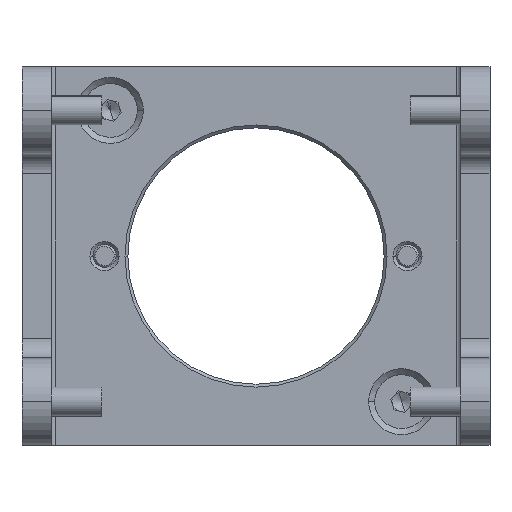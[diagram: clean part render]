
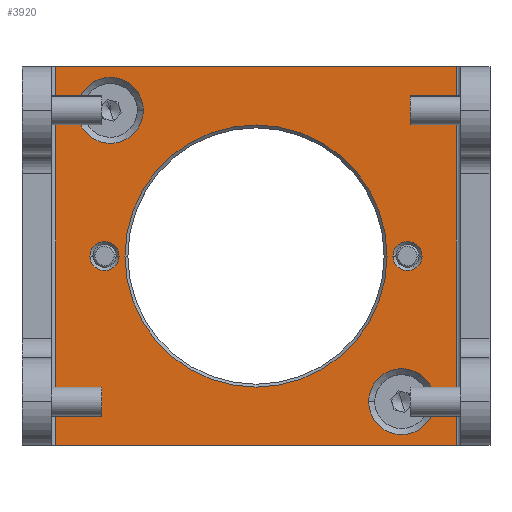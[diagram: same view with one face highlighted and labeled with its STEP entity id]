
A CAD part, top view. The second image highlights one B-rep face of the part: STEP entity #3920.
In plain terms, the highlighted planar face has unit normal (0, 0, 1).
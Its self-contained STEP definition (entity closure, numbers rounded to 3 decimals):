
#166 = EDGE_CURVE ( 'NONE', #2385, #3336, #10976, .T. ) ;
#241 = CARTESIAN_POINT ( 'NONE',  ( -13.5, 0., 0. ) ) ;
#256 = CIRCLE ( 'NONE', #5884, 3.4 ) ;
#277 = CARTESIAN_POINT ( 'NONE',  ( -21.1, 19.5, 0. ) ) ;
#292 = DIRECTION ( 'NONE',  ( 1., 0., 0. ) ) ;
#334 = CARTESIAN_POINT ( 'NONE',  ( 18.4, -15., 0. ) ) ;
#362 = DIRECTION ( 'NONE',  ( 1., 0., 0. ) ) ;
#384 = CARTESIAN_POINT ( 'NONE',  ( 11.6, -15., 0. ) ) ;
#446 = CIRCLE ( 'NONE', #1988, 1.5 ) ;
#547 = VERTEX_POINT ( 'NONE', #3656 ) ;
#606 = CARTESIAN_POINT ( 'NONE',  ( 20.6, 19.5, 0. ) ) ;
#636 = AXIS2_PLACEMENT_3D ( 'NONE', #11675, #2248, #9652 ) ;
#729 = FACE_BOUND ( 'NONE', #11245, .T. ) ;
#765 = DIRECTION ( 'NONE',  ( -1., 0., 0. ) ) ;
#795 = AXIS2_PLACEMENT_3D ( 'NONE', #9337, #2945, #10237 ) ;
#855 = EDGE_CURVE ( 'NONE', #3336, #2385, #11811, .T. ) ;
#897 = DIRECTION ( 'NONE',  ( 0., -1., 0. ) ) ;
#1280 = ORIENTED_EDGE ( 'NONE', *, *, #5298, .T. ) ;
#1452 = EDGE_CURVE ( 'NONE', #8677, #8291, #11402, .T. ) ;
#1489 = VERTEX_POINT ( 'NONE', #10849 ) ;
#1692 = FACE_BOUND ( 'NONE', #6046, .T. ) ;
#1693 = ORIENTED_EDGE ( 'NONE', *, *, #1452, .F. ) ;
#1821 = CARTESIAN_POINT ( 'NONE',  ( 15., -15., 0. ) ) ;
#1860 = LINE ( 'NONE', #6419, #11377 ) ;
#1988 = AXIS2_PLACEMENT_3D ( 'NONE', #7883, #7825, #2400 ) ;
#2059 = AXIS2_PLACEMENT_3D ( 'NONE', #4592, #10946, #2639 ) ;
#2061 = EDGE_LOOP ( 'NONE', ( #7159, #2251 ) ) ;
#2095 = DIRECTION ( 'NONE',  ( 0., 0., 1. ) ) ;
#2162 = DIRECTION ( 'NONE',  ( 1., 0., 0. ) ) ;
#2209 = CARTESIAN_POINT ( 'NONE',  ( 13.5, 0., 0. ) ) ;
#2248 = DIRECTION ( 'NONE',  ( 0., 0., 1. ) ) ;
#2251 = ORIENTED_EDGE ( 'NONE', *, *, #3737, .T. ) ;
#2280 = EDGE_CURVE ( 'NONE', #9969, #3421, #9466, .T. ) ;
#2341 = CARTESIAN_POINT ( 'NONE',  ( 17.1, 0., 0. ) ) ;
#2385 = VERTEX_POINT ( 'NONE', #10631 ) ;
#2400 = DIRECTION ( 'NONE',  ( -1., 0., 0. ) ) ;
#2639 = DIRECTION ( 'NONE',  ( -1., 0., 0. ) ) ;
#2692 = AXIS2_PLACEMENT_3D ( 'NONE', #9029, #8117, #765 ) ;
#2826 = ORIENTED_EDGE ( 'NONE', *, *, #2280, .T. ) ;
#2920 = EDGE_CURVE ( 'NONE', #8677, #1489, #1860, .T. ) ;
#2945 = DIRECTION ( 'NONE',  ( 0., 0., -1. ) ) ;
#3000 = EDGE_CURVE ( 'NONE', #10928, #547, #6564, .T. ) ;
#3145 = CIRCLE ( 'NONE', #7051, 3.4 ) ;
#3274 = CARTESIAN_POINT ( 'NONE',  ( -14.1, 0., 0. ) ) ;
#3332 = FACE_BOUND ( 'NONE', #5522, .T. ) ;
#3336 = VERTEX_POINT ( 'NONE', #2341 ) ;
#3377 = VERTEX_POINT ( 'NONE', #334 ) ;
#3421 = VERTEX_POINT ( 'NONE', #2209 ) ;
#3656 = CARTESIAN_POINT ( 'NONE',  ( -18.4, 15., 0. ) ) ;
#3737 = EDGE_CURVE ( 'NONE', #9760, #3981, #10636, .T. ) ;
#3874 = VECTOR ( 'NONE', #3958, 1000. ) ;
#3920 = ADVANCED_FACE ( 'NONE', ( #1692, #729, #5281, #3332, #9834, #8142 ), #7176, .F. ) ;
#3958 = DIRECTION ( 'NONE',  ( 1., 0., 0. ) ) ;
#3981 = VERTEX_POINT ( 'NONE', #3274 ) ;
#4246 = AXIS2_PLACEMENT_3D ( 'NONE', #11742, #7115, #4361 ) ;
#4361 = DIRECTION ( 'NONE',  ( -1., 0., 0. ) ) ;
#4592 = CARTESIAN_POINT ( 'NONE',  ( 15.6, 0., 0. ) ) ;
#4668 = CARTESIAN_POINT ( 'NONE',  ( -17.1, 0., 0. ) ) ;
#4681 = VECTOR ( 'NONE', #8015, 1000. ) ;
#4972 = VERTEX_POINT ( 'NONE', #8771 ) ;
#5058 = ORIENTED_EDGE ( 'NONE', *, *, #8552, .T. ) ;
#5281 = FACE_BOUND ( 'NONE', #2061, .T. ) ;
#5298 = EDGE_CURVE ( 'NONE', #1489, #4972, #8670, .T. ) ;
#5333 = LINE ( 'NONE', #606, #4681 ) ;
#5378 = ORIENTED_EDGE ( 'NONE', *, *, #3000, .F. ) ;
#5522 = EDGE_LOOP ( 'NONE', ( #9147, #2826 ) ) ;
#5633 = ORIENTED_EDGE ( 'NONE', *, *, #166, .T. ) ;
#5823 = AXIS2_PLACEMENT_3D ( 'NONE', #6259, #9784, #10013 ) ;
#5884 = AXIS2_PLACEMENT_3D ( 'NONE', #1821, #7648, #362 ) ;
#6046 = EDGE_LOOP ( 'NONE', ( #10905, #8847 ) ) ;
#6259 = CARTESIAN_POINT ( 'NONE',  ( -21.1, 19.5, 0. ) ) ;
#6419 = CARTESIAN_POINT ( 'NONE',  ( -20.6, -19.5, 0. ) ) ;
#6490 = EDGE_CURVE ( 'NONE', #3421, #9969, #6607, .T. ) ;
#6564 = CIRCLE ( 'NONE', #8120, 3.4 ) ;
#6607 = CIRCLE ( 'NONE', #4246, 13.5 ) ;
#7011 = CARTESIAN_POINT ( 'NONE',  ( -11.6, 15., 0. ) ) ;
#7051 = AXIS2_PLACEMENT_3D ( 'NONE', #11271, #8466, #10152 ) ;
#7079 = EDGE_LOOP ( 'NONE', ( #5378, #11984 ) ) ;
#7115 = DIRECTION ( 'NONE',  ( 0., 0., -1. ) ) ;
#7159 = ORIENTED_EDGE ( 'NONE', *, *, #8743, .T. ) ;
#7176 = PLANE ( 'NONE',  #5823 ) ;
#7363 = VECTOR ( 'NONE', #292, 1000. ) ;
#7633 = CARTESIAN_POINT ( 'NONE',  ( 0., 0., 0. ) ) ;
#7648 = DIRECTION ( 'NONE',  ( 0., 0., 1. ) ) ;
#7815 = CARTESIAN_POINT ( 'NONE',  ( 20.6, 19.5, 0. ) ) ;
#7825 = DIRECTION ( 'NONE',  ( 0., 0., -1. ) ) ;
#7883 = CARTESIAN_POINT ( 'NONE',  ( -15.6, 0., 0. ) ) ;
#8015 = DIRECTION ( 'NONE',  ( 0., 1., 0. ) ) ;
#8117 = DIRECTION ( 'NONE',  ( 0., 0., -1. ) ) ;
#8120 = AXIS2_PLACEMENT_3D ( 'NONE', #10056, #2095, #2162 ) ;
#8142 = FACE_BOUND ( 'NONE', #7079, .T. ) ;
#8291 = VERTEX_POINT ( 'NONE', #7815 ) ;
#8323 = ORIENTED_EDGE ( 'NONE', *, *, #2920, .T. ) ;
#8408 = CIRCLE ( 'NONE', #636, 3.4 ) ;
#8466 = DIRECTION ( 'NONE',  ( 0., 0., 1. ) ) ;
#8551 = DIRECTION ( 'NONE',  ( 0., 0., -1. ) ) ;
#8552 = EDGE_CURVE ( 'NONE', #4972, #8291, #5333, .T. ) ;
#8670 = LINE ( 'NONE', #9445, #7363 ) ;
#8677 = VERTEX_POINT ( 'NONE', #9695 ) ;
#8743 = EDGE_CURVE ( 'NONE', #3981, #9760, #446, .T. ) ;
#8771 = CARTESIAN_POINT ( 'NONE',  ( 20.6, -19.5, 0. ) ) ;
#8847 = ORIENTED_EDGE ( 'NONE', *, *, #9039, .F. ) ;
#9029 = CARTESIAN_POINT ( 'NONE',  ( -15.6, 0., 0. ) ) ;
#9039 = EDGE_CURVE ( 'NONE', #11871, #3377, #256, .T. ) ;
#9147 = ORIENTED_EDGE ( 'NONE', *, *, #6490, .T. ) ;
#9271 = AXIS2_PLACEMENT_3D ( 'NONE', #7633, #8551, #11242 ) ;
#9337 = CARTESIAN_POINT ( 'NONE',  ( 15.6, 0., 0. ) ) ;
#9445 = CARTESIAN_POINT ( 'NONE',  ( -21.1, -19.5, 0. ) ) ;
#9466 = CIRCLE ( 'NONE', #9271, 13.5 ) ;
#9652 = DIRECTION ( 'NONE',  ( 1., 0., 0. ) ) ;
#9695 = CARTESIAN_POINT ( 'NONE',  ( -20.6, 19.5, 0. ) ) ;
#9760 = VERTEX_POINT ( 'NONE', #4668 ) ;
#9784 = DIRECTION ( 'NONE',  ( 0., 0., -1. ) ) ;
#9834 = FACE_OUTER_BOUND ( 'NONE', #11647, .T. ) ;
#9969 = VERTEX_POINT ( 'NONE', #241 ) ;
#10013 = DIRECTION ( 'NONE',  ( -1., 0., 0. ) ) ;
#10056 = CARTESIAN_POINT ( 'NONE',  ( -15., 15., 0. ) ) ;
#10152 = DIRECTION ( 'NONE',  ( 1., 0., 0. ) ) ;
#10237 = DIRECTION ( 'NONE',  ( -1., 0., 0. ) ) ;
#10631 = CARTESIAN_POINT ( 'NONE',  ( 14.1, 0., 0. ) ) ;
#10636 = CIRCLE ( 'NONE', #2692, 1.5 ) ;
#10849 = CARTESIAN_POINT ( 'NONE',  ( -20.6, -19.5, 0. ) ) ;
#10905 = ORIENTED_EDGE ( 'NONE', *, *, #11249, .F. ) ;
#10928 = VERTEX_POINT ( 'NONE', #7011 ) ;
#10946 = DIRECTION ( 'NONE',  ( 0., 0., -1. ) ) ;
#10976 = CIRCLE ( 'NONE', #2059, 1.5 ) ;
#11068 = EDGE_CURVE ( 'NONE', #547, #10928, #3145, .T. ) ;
#11242 = DIRECTION ( 'NONE',  ( -1., 0., 0. ) ) ;
#11245 = EDGE_LOOP ( 'NONE', ( #11696, #5633 ) ) ;
#11249 = EDGE_CURVE ( 'NONE', #3377, #11871, #8408, .T. ) ;
#11271 = CARTESIAN_POINT ( 'NONE',  ( -15., 15., 0. ) ) ;
#11377 = VECTOR ( 'NONE', #897, 1000. ) ;
#11402 = LINE ( 'NONE', #277, #3874 ) ;
#11647 = EDGE_LOOP ( 'NONE', ( #1280, #5058, #1693, #8323 ) ) ;
#11675 = CARTESIAN_POINT ( 'NONE',  ( 15., -15., 0. ) ) ;
#11696 = ORIENTED_EDGE ( 'NONE', *, *, #855, .T. ) ;
#11742 = CARTESIAN_POINT ( 'NONE',  ( 0., 0., 0. ) ) ;
#11811 = CIRCLE ( 'NONE', #795, 1.5 ) ;
#11871 = VERTEX_POINT ( 'NONE', #384 ) ;
#11984 = ORIENTED_EDGE ( 'NONE', *, *, #11068, .F. ) ;
